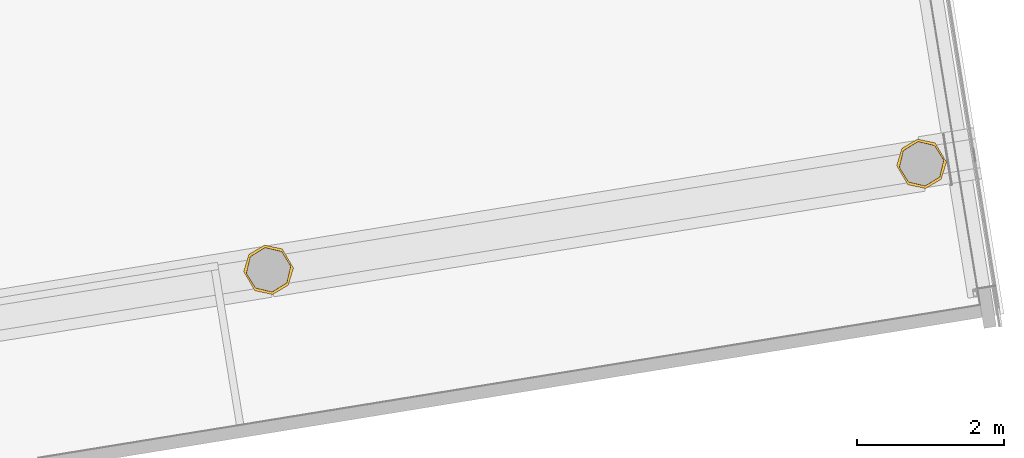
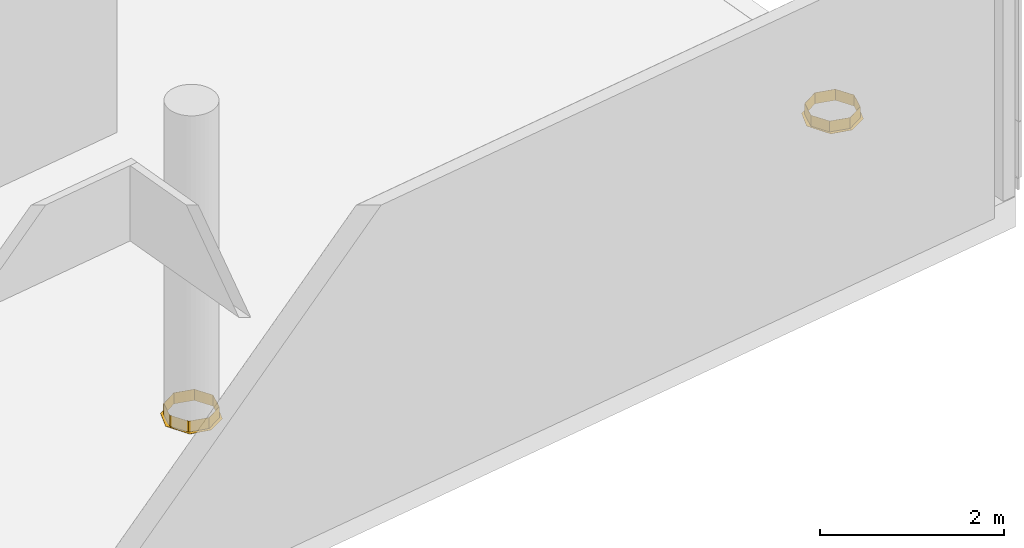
# One storey, part 29 of 38: 2 railings.
"""IFC2X3 building model written with IfcOpenShell, lengths in millimetres."""

from ifc_helpers import new_model, entity, si_unit, converted_unit, derived_unit, direction, frame, origin, origin_with_axes, place, context, subcontext, project, spatial, faceted_brep, material, type_object, element, save


model = new_model("IFC2X3")

# Units and contexts
model_context = context("Model", 3, precision=0.01, world=origin(), true_north=direction((6.12323399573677e-17, 1.0)))
plan_context = context("Plan", 3, precision=1e-05, world=origin_with_axes())
body_context = subcontext(model_context, "Body", "Model", "MODEL_VIEW")
ifc_project = project(units=[converted_unit("PLANEANGLEUNIT", "DEGREE", entity("IfcPositiveLengthMeasure", 0.0174532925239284), si_unit("PLANEANGLEUNIT", "RADIAN"), dimensions=[0, 0, 0, 0, 0, 0, 0]), si_unit("AREAUNIT", "SQUARE_METRE"), si_unit("LENGTHUNIT", "METRE", prefix="MILLI"), si_unit("MASSUNIT", "GRAM", prefix="KILO"), si_unit("POWERUNIT", "WATT"), si_unit("PRESSUREUNIT", "PASCAL", prefix="KILO"), si_unit("FORCEUNIT", "NEWTON", prefix="KILO"), si_unit("ELECTRICVOLTAGEUNIT", "VOLT"), si_unit("ELECTRICCURRENTUNIT", "AMPERE"), si_unit("THERMODYNAMICTEMPERATUREUNIT", "DEGREE_CELSIUS"), si_unit("TIMEUNIT", "SECOND"), si_unit("VOLUMEUNIT", "CUBIC_METRE"), derived_unit("LINEARVELOCITYUNIT", [(si_unit("LENGTHUNIT", "METRE"), 1), (si_unit("TIMEUNIT", "SECOND"), -1)]), derived_unit("VOLUMETRICFLOWRATEUNIT", [(si_unit("VOLUMEUNIT", "CUBIC_METRE"), 1), (si_unit("TIMEUNIT", "SECOND"), -1)]), derived_unit("THERMALTRANSMITTANCEUNIT", [(si_unit("POWERUNIT", "WATT"), 1), (si_unit("THERMODYNAMICTEMPERATUREUNIT", "KELVIN"), -1), (si_unit("AREAUNIT", "SQUARE_METRE"), -1)]), derived_unit("SOUNDPRESSUREUNIT", [(si_unit("PRESSUREUNIT", "PASCAL"), 1)])], contexts=[model_context, plan_context])

# Site, building, storey
site_placement = place(None, frame((-0.00071070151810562, 0.00438415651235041, 0.0), z_axis=(0.0, 0.0, 1.0), x_axis=(-0.160236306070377, 0.987078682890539, 0.0)))
site = spatial("IfcSite", under=ifc_project, at=site_placement, Name="Default", CompositionType="ELEMENT")
building_placement = place(site_placement, origin_with_axes())
building = spatial("IfcBuilding", under=site, at=building_placement, Name="TOO", CompositionType="ELEMENT")
storey_placement = place(building_placement, frame((0.0, 0.0, 50999.9999999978), z_axis=(0.0, 0.0, 1.0), x_axis=(1.0, 0.0, 0.0)))
storey = spatial("IfcBuildingStorey", under=building, at=storey_placement, Name="Nivå D-H01", CompositionType="ELEMENT", Elevation=50999.9999999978)

# Railings
ifc_material = material(Name="<Unnamed>")
railing_type = type_object("IfcRailingType", Name="Railing:A287-S04", PredefinedType="NOTDEFINED")
railing_1_placement = place(storey_placement, frame((770536.02437183, -603842.625391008, 2.0), z_axis=(0.0, 0.0, 1.0), x_axis=(1.0, 0.0, 0.0)))
element("IfcRailing", 1, at=railing_1_placement, inside=storey, type_object=railing_type, material=ifc_material, Name="Railing:A287-S04", ObjectType="Railing:A287-S04", PredefinedType="NOTDEFINED", context=body_context, shape_type="Brep", body=[
    faceted_brep([(39.595272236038, 340.144892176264, 148.0), (125.92770397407, 555.812460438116, 148.0), (103.594596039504, 501.895568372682, 148.0), (59.7428568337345, 388.785464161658, 148.0), (81.261488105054, 447.978676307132, 148.0), (58.9283801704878, 394.061784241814, 148.0), (36.5952722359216, 340.144892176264, 148.0), (58.9283801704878, 286.22800011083, 148.0), (81.261488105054, 232.311108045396, 148.0), (103.594596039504, 178.394215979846, 148.0), (125.92770397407, 124.477323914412, 148.0), (59.7428570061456, 291.504319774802, 148.0), (83.8221482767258, 446.91801613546, 148.0), (105.935586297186, 500.304578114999, 148.0), (128.049024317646, 553.691140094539, 148.0), (179.844596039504, 578.145568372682, 148.0), (233.761488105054, 600.478676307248, 148.0), (287.678380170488, 622.811784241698, 148.0), (341.595272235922, 645.144892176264, 148.0), (181.43558629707, 575.804578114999, 148.0), (234.822148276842, 597.91801613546, 148.0), (288.208710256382, 620.031454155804, 148.0), (341.595272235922, 642.144892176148, 148.0), (394.981834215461, 620.03145415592, 148.0), (448.368396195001, 597.91801613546, 148.0), (501.754958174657, 575.804578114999, 148.0), (555.14152015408, 553.691140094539, 148.0), (395.512164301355, 622.811784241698, 148.0), (449.429056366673, 600.478676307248, 148.0), (503.345948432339, 578.145568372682, 148.0), (557.262840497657, 555.812460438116, 148.0), (577.254958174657, 500.304578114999, 148.0), (599.368396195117, 446.91801613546, 148.0), (623.447687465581, 388.785464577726, 148.0), (643.595272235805, 340.144892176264, 148.0), (579.595948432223, 501.895568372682, 148.0), (601.929056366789, 447.978676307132, 148.0), (624.262164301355, 394.061784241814, 148.0), (646.595272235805, 340.144892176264, 148.0), (624.262164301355, 286.22800011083, 148.0), (601.929056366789, 232.311108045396, 148.0), (579.595948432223, 178.394215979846, 148.0), (557.262840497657, 124.477323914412, 148.0), (623.447687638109, 291.50432019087, 148.0), (599.368396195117, 233.371768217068, 148.0), (577.254958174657, 179.985206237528, 148.0), (555.14152015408, 126.598644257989, 148.0), (503.345948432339, 102.144215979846, 148.0), (449.429056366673, 79.81110804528, 148.0), (395.512164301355, 57.4780001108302, 148.0), (341.595272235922, 35.1448921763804, 148.0), (501.754958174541, 104.485206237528, 148.0), (448.368396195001, 82.3717682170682, 148.0), (394.981834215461, 60.2583301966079, 148.0), (341.595272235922, 38.1448921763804, 148.0), (288.208710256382, 60.2583301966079, 148.0), (234.822148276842, 82.3717682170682, 148.0), (181.43558629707, 104.485206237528, 148.0), (128.049024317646, 126.598644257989, 148.0), (179.844596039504, 102.144215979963, 148.0), (105.935586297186, 179.985206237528, 148.0), (233.761488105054, 79.81110804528, 148.0), (287.678380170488, 57.4780001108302, 148.0), (83.8221482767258, 233.371768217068, 148.0), (555.141520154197, 553.691140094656, 0.0), (577.254958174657, 500.304578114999, 0.0), (599.368396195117, 446.91801613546, 0.0), (621.481834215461, 393.53145415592, 0.0), (643.595272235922, 340.144892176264, 0.0), (341.595272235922, 642.144892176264, 0.0), (394.981834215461, 620.03145415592, 0.0), (448.368396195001, 597.91801613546, 0.0), (501.754958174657, 575.804578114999, 0.0), (288.208710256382, 620.03145415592, 0.0), (128.04902431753, 553.691140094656, 0.0), (181.43558629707, 575.804578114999, 0.0), (234.822148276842, 597.91801613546, 0.0), (105.935586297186, 500.304578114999, 0.0), (39.5952722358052, 340.144892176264, 0.0), (61.7087102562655, 393.53145415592, 0.0), (83.8221482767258, 446.91801613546, 0.0), (1.59527223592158, 340.144892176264, 0.0), (23.7795142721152, 397.409021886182, 0.0), (45.9637563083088, 454.6731515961, 0.0), (68.1479983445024, 511.937281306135, 0.0), (90.3322403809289, 569.201411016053, 0.0), (23.7795142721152, 282.880762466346, 0.0), (45.9637563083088, 225.616632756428, 0.0), (68.1479983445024, 168.352503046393, 0.0), (90.3322403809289, 111.088373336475, 0.0), (61.7087102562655, 286.758330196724, 0.0), (83.8221482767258, 233.371768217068, 0.0), (105.935586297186, 179.985206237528, 0.0), (128.04902431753, 126.598644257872, 0.0), (145.305187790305, 83.715098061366, 0.0), (200.278135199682, 56.3418227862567, 0.0), (255.251082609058, 28.9685475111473, 0.0), (310.224030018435, 1.59527223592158, 0.0), (181.435586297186, 104.485206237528, 0.0), (234.822148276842, 82.3717682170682, 0.0), (288.208710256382, 60.2583301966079, 0.0), (341.595272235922, 38.144892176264, 0.0), (380.882598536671, 28.9685475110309, 0.0), (451.541167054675, 56.3418227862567, 0.0), (522.199735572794, 83.7150980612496, 0.0), (592.858304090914, 111.088373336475, 0.0), (394.981834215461, 60.2583301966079, 0.0), (448.368396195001, 82.3717682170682, 0.0), (501.754958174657, 104.485206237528, 0.0), (555.141520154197, 126.598644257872, 0.0), (577.254958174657, 179.985206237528, 0.0), (599.368396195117, 233.371768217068, 0.0), (621.481834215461, 286.758330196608, 0.0), (615.042546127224, 168.352503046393, 0.0), (637.226788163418, 225.616632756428, 0.0), (659.411030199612, 282.880762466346, 0.0), (681.595272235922, 340.144892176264, 0.0), (659.411030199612, 397.409021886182, 0.0), (637.226788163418, 454.6731515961, 0.0), (615.042546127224, 511.937281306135, 0.0), (592.858304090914, 569.201411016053, 0.0), (537.885356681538, 596.574686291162, 0.0), (482.912409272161, 623.947961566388, 0.0), (427.939461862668, 651.321236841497, 0.0), (372.966514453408, 678.694512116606, 0.0), (160.990808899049, 596.574686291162, 0.0), (231.649377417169, 623.947961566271, 0.0), (302.307945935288, 651.321236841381, 0.0), (681.595272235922, 340.144892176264, 3.0), (592.858304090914, 569.201411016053, 3.0), (615.042546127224, 511.937281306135, 3.0), (637.226788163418, 454.6731515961, 3.0), (653.180009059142, 413.493141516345, 3.0), (537.885356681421, 596.574686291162, 3.0), (372.966514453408, 678.694512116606, 3.0), (427.939461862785, 651.321236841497, 3.0), (482.912409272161, 623.947961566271, 3.0), (90.3322403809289, 569.201411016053, 3.0), (160.990808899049, 596.574686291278, 3.0), (231.649377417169, 623.947961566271, 3.0), (302.307945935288, 651.321236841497, 3.0), (1.59527223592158, 340.144892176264, 3.0), (30.0105352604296, 413.493141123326, 3.0), (45.9637563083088, 454.6731515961, 3.0), (68.1479983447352, 511.937281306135, 3.0), (36.5952722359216, 340.144892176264, 3.0), (57.4668867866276, 390.533427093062, 3.0), (30.0105354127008, 266.796642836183, 3.0), (45.9637563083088, 225.616632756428, 3.0), (68.1479983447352, 168.352503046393, 3.0), (90.3322403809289, 111.088373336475, 3.0), (57.4668869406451, 289.756356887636, 3.0), (81.261488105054, 447.978676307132, 3.0), (103.594596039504, 501.895568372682, 3.0), (125.92770397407, 555.812460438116, 3.0), (179.84459603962, 578.145568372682, 3.0), (233.761488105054, 600.478676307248, 3.0), (287.678380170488, 622.811784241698, 3.0), (341.595272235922, 645.144892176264, 3.0), (395.512164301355, 622.811784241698, 3.0), (449.429056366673, 600.478676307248, 3.0), (503.345948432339, 578.145568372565, 3.0), (557.262840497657, 555.812460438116, 3.0), (581.057441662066, 498.367211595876, 3.0), (604.852042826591, 440.921962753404, 3.0), (625.723657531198, 390.533427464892, 3.0), (646.595272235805, 340.144892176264, 3.0), (653.180009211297, 266.796643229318, 3.0), (637.226788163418, 225.616632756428, 3.0), (615.042546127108, 168.352503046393, 3.0), (592.858304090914, 111.088373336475, 3.0), (625.723657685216, 289.75635725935, 3.0), (601.929056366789, 232.311108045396, 3.0), (579.595948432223, 178.394215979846, 3.0), (557.262840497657, 124.477323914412, 3.0), (503.345948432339, 102.144215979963, 3.0), (449.429056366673, 79.81110804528, 3.0), (395.512164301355, 57.4780001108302, 3.0), (341.595272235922, 35.1448921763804, 3.0), (522.199735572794, 83.715098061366, 3.0), (451.541167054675, 56.3418227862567, 3.0), (380.882598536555, 28.9685475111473, 3.0), (310.224030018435, 1.59527223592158, 3.0), (287.678380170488, 57.4780001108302, 3.0), (233.761488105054, 79.81110804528, 3.0), (179.844596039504, 102.144215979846, 3.0), (125.92770397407, 124.477323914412, 3.0), (145.305187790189, 83.7150980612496, 3.0), (102.133102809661, 181.922572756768, 3.0), (200.278135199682, 56.3418227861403, 3.0), (255.251082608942, 28.9685475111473, 3.0), (78.3385016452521, 239.367821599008, 3.0)], [[[0, 1, 2]], [[1, 0, 3]], [[0, 2, 4]], [[0, 4, 5]], [[0, 5, 6]], [[0, 6, 7]], [[0, 7, 8]], [[0, 8, 9]], [[0, 9, 10]], [[10, 11, 0]], [[1, 3, 12]], [[1, 12, 13]], [[1, 13, 14]], [[14, 15, 1]], [[14, 16, 15]], [[14, 17, 16]], [[14, 18, 17]], [[18, 14, 19]], [[18, 19, 20]], [[18, 20, 21]], [[18, 21, 22]], [[18, 22, 23]], [[18, 23, 24]], [[18, 24, 25]], [[18, 25, 26]], [[26, 27, 18]], [[26, 28, 27]], [[26, 29, 28]], [[26, 30, 29]], [[30, 26, 31]], [[30, 31, 32]], [[30, 32, 33]], [[30, 33, 34]], [[34, 35, 30]], [[34, 36, 35]], [[34, 37, 36]], [[34, 38, 37]], [[34, 39, 38]], [[34, 40, 39]], [[34, 41, 40]], [[34, 42, 41]], [[42, 34, 43]], [[42, 43, 44]], [[42, 44, 45]], [[42, 45, 46]], [[46, 47, 42]], [[46, 48, 47]], [[46, 49, 48]], [[46, 50, 49]], [[50, 46, 51]], [[50, 51, 52]], [[50, 52, 53]], [[50, 53, 54]], [[50, 54, 55]], [[50, 55, 56]], [[50, 56, 57]], [[50, 57, 58]], [[58, 10, 59]], [[10, 58, 60]], [[58, 59, 61]], [[58, 61, 62]], [[58, 62, 50]], [[10, 60, 63]], [[10, 63, 11]], [[32, 31, 26, 64, 65, 66, 67, 68, 34, 33]], [[23, 22, 69, 70, 71, 72, 64, 26, 25, 24]], [[73, 69, 22, 21, 20, 19, 14, 74, 75, 76]], [[77, 74, 14, 13, 12, 3, 0, 78, 79, 80]], [[78, 81, 82]], [[78, 82, 83]], [[78, 83, 84]], [[78, 84, 85]], [[85, 79, 78]], [[78, 86, 81]], [[78, 87, 86]], [[78, 88, 87]], [[78, 89, 88]], [[89, 78, 90]], [[89, 90, 91]], [[89, 91, 92]], [[89, 92, 93]], [[93, 94, 89]], [[93, 95, 94]], [[93, 96, 95]], [[93, 97, 96]], [[97, 93, 98]], [[97, 98, 99]], [[97, 99, 100]], [[97, 100, 101]], [[101, 102, 97]], [[101, 103, 102]], [[101, 104, 103]], [[101, 105, 104]], [[105, 101, 106]], [[105, 106, 107]], [[105, 107, 108]], [[105, 108, 109]], [[105, 109, 110]], [[105, 110, 111]], [[105, 111, 112]], [[105, 112, 68]], [[68, 113, 105]], [[68, 114, 113]], [[68, 115, 114]], [[68, 116, 115]], [[68, 117, 116]], [[68, 118, 117]], [[68, 119, 118]], [[68, 120, 119]], [[120, 68, 67]], [[120, 67, 66]], [[120, 66, 65]], [[120, 65, 64]], [[64, 121, 120]], [[64, 122, 121]], [[64, 123, 122]], [[64, 124, 123]], [[124, 64, 72]], [[124, 72, 71]], [[124, 71, 70]], [[124, 70, 69]], [[85, 69, 73]], [[69, 85, 125]], [[69, 125, 126]], [[69, 126, 127]], [[69, 127, 124]], [[85, 73, 76]], [[85, 76, 75]], [[85, 75, 74]], [[85, 74, 77]], [[85, 77, 80]], [[85, 80, 79]], [[128, 116, 117, 118, 119, 120, 129, 130, 131, 132]], [[133, 129, 120, 121, 122, 123, 124, 134, 135, 136]], [[126, 125, 85, 137, 138, 139, 140, 134, 124, 127]], [[83, 82, 81, 141, 142, 143, 144, 137, 85, 84]], [[145, 137, 144]], [[137, 145, 146]], [[145, 144, 143]], [[145, 143, 142]], [[145, 142, 141]], [[145, 141, 147]], [[145, 147, 148]], [[145, 148, 149]], [[145, 149, 150]], [[150, 151, 145]], [[137, 146, 152]], [[137, 152, 153]], [[137, 153, 154]], [[137, 154, 155]], [[137, 155, 156]], [[137, 156, 157]], [[137, 157, 158]], [[158, 138, 137]], [[158, 139, 138]], [[158, 140, 139]], [[158, 134, 140]], [[134, 158, 159]], [[134, 159, 160]], [[134, 160, 161]], [[134, 161, 162]], [[162, 135, 134]], [[162, 136, 135]], [[162, 133, 136]], [[162, 129, 133]], [[129, 162, 163]], [[129, 163, 164]], [[129, 164, 165]], [[129, 165, 166]], [[166, 130, 129]], [[166, 131, 130]], [[166, 132, 131]], [[166, 128, 132]], [[166, 167, 128]], [[166, 168, 167]], [[166, 169, 168]], [[166, 170, 169]], [[170, 166, 171]], [[170, 171, 172]], [[170, 172, 173]], [[170, 173, 174]], [[170, 174, 175]], [[170, 175, 176]], [[170, 176, 177]], [[170, 177, 178]], [[178, 179, 170]], [[178, 180, 179]], [[178, 181, 180]], [[178, 182, 181]], [[182, 178, 183]], [[182, 183, 184]], [[182, 184, 185]], [[182, 185, 186]], [[186, 150, 187]], [[150, 186, 188]], [[186, 187, 189]], [[186, 189, 190]], [[186, 190, 182]], [[150, 188, 191]], [[150, 191, 151]], [[35, 36, 37, 38, 166, 165, 164, 163, 162, 30]], [[30, 162, 161, 160, 159, 158, 18, 27, 28, 29]], [[154, 153, 152, 146, 145, 6, 5, 4, 2, 1]], [[17, 18, 158, 157, 156, 155, 154, 1, 15, 16]], [[63, 60, 58, 93, 92, 91, 90, 78, 0, 11]], [[55, 54, 101, 100, 99, 98, 93, 58, 57, 56]], [[106, 101, 54, 53, 52, 51, 46, 109, 108, 107]], [[110, 109, 46, 45, 44, 43, 34, 68, 112, 111]], [[141, 81, 86, 87, 88, 89, 150, 149, 148, 147]], [[187, 150, 89, 94, 95, 96, 97, 182, 190, 189]], [[103, 104, 105, 170, 179, 180, 181, 182, 97, 102]], [[114, 115, 116, 128, 167, 168, 169, 170, 105, 113]], [[9, 8, 7, 6, 145, 151, 191, 188, 186, 10]], [[10, 186, 185, 184, 183, 178, 50, 62, 61, 59]], [[174, 173, 172, 171, 166, 38, 39, 40, 41, 42]], [[49, 50, 178, 177, 176, 175, 174, 42, 47, 48]]]),
])
railing_2_placement = place(storey_placement, frame((770536.02437183, -594842.625391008, 2.0), z_axis=(0.0, 0.0, 1.0), x_axis=(1.0, 0.0, 0.0)))
element("IfcRailing", 2, at=railing_2_placement, inside=storey, type_object=railing_type, material=ifc_material, Name="Railing:A287-S04", ObjectType="Railing:A287-S04", PredefinedType="NOTDEFINED", context=body_context, shape_type="Brep", body=[
    faceted_brep([(39.595272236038, 340.144892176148, 148.0), (125.92770397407, 555.812460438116, 148.0), (103.594596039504, 501.895568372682, 148.0), (59.7428568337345, 388.785464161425, 148.0), (81.261488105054, 447.978676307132, 148.0), (58.9283801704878, 394.061784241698, 148.0), (36.5952722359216, 340.144892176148, 148.0), (58.9283801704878, 286.228000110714, 148.0), (81.261488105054, 232.31110804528, 148.0), (103.594596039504, 178.39421597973, 148.0), (125.92770397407, 124.477323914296, 148.0), (59.7428570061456, 291.504319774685, 148.0), (83.8221482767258, 446.918016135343, 148.0), (105.935586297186, 500.304578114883, 148.0), (128.049024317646, 553.691140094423, 148.0), (179.844596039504, 578.145568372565, 148.0), (233.761488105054, 600.478676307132, 148.0), (287.678380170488, 622.811784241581, 148.0), (341.595272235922, 645.144892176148, 148.0), (181.43558629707, 575.804578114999, 148.0), (234.822148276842, 597.918016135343, 148.0), (288.208710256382, 620.031454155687, 148.0), (341.595272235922, 642.144892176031, 148.0), (394.981834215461, 620.031454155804, 148.0), (448.368396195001, 597.918016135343, 148.0), (501.754958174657, 575.804578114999, 148.0), (555.14152015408, 553.691140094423, 148.0), (395.512164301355, 622.811784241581, 148.0), (449.429056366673, 600.478676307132, 148.0), (503.345948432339, 578.145568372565, 148.0), (557.262840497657, 555.812460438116, 148.0), (577.254958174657, 500.304578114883, 148.0), (599.368396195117, 446.918016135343, 148.0), (623.447687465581, 388.78546457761, 148.0), (643.595272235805, 340.144892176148, 148.0), (579.595948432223, 501.895568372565, 148.0), (601.929056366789, 447.978676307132, 148.0), (624.262164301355, 394.061784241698, 148.0), (646.595272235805, 340.144892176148, 148.0), (624.262164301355, 286.228000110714, 148.0), (601.929056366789, 232.31110804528, 148.0), (579.595948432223, 178.39421597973, 148.0), (557.262840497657, 124.477323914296, 148.0), (623.447687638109, 291.50432019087, 148.0), (599.368396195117, 233.371768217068, 148.0), (577.254958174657, 179.985206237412, 148.0), (555.14152015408, 126.598644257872, 148.0), (503.345948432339, 102.14421597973, 148.0), (449.429056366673, 79.81110804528, 148.0), (395.512164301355, 57.4780001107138, 148.0), (341.595272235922, 35.144892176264, 148.0), (501.754958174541, 104.485206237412, 148.0), (448.368396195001, 82.3717682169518, 148.0), (394.981834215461, 60.2583301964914, 148.0), (341.595272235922, 38.144892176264, 148.0), (288.208710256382, 60.2583301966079, 148.0), (234.822148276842, 82.3717682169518, 148.0), (181.43558629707, 104.485206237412, 148.0), (128.049024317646, 126.598644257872, 148.0), (179.844596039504, 102.14421597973, 148.0), (105.935586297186, 179.985206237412, 148.0), (233.761488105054, 79.81110804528, 148.0), (287.678380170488, 57.4780001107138, 148.0), (83.8221482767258, 233.371768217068, 148.0), (555.141520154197, 553.691140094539, 0.0), (577.254958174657, 500.304578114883, 0.0), (599.368396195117, 446.918016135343, 0.0), (621.481834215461, 393.531454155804, 0.0), (643.595272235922, 340.144892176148, 0.0), (341.595272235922, 642.144892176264, 0.0), (394.981834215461, 620.031454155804, 0.0), (448.368396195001, 597.918016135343, 0.0), (501.754958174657, 575.804578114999, 0.0), (288.208710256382, 620.031454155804, 0.0), (128.04902431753, 553.691140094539, 0.0), (181.43558629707, 575.804578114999, 0.0), (234.822148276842, 597.918016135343, 0.0), (105.935586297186, 500.304578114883, 0.0), (39.5952722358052, 340.144892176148, 0.0), (61.7087102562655, 393.531454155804, 0.0), (83.8221482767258, 446.918016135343, 0.0), (1.59527223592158, 340.144892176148, 0.0), (23.7795142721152, 397.409021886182, 0.0), (45.9637563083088, 454.6731515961, 0.0), (68.1479983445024, 511.937281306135, 0.0), (90.3322403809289, 569.201411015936, 0.0), (23.7795142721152, 282.880762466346, 0.0), (45.9637563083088, 225.616632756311, 0.0), (68.1479983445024, 168.352503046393, 0.0), (90.3322403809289, 111.088373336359, 0.0), (61.7087102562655, 286.758330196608, 0.0), (83.8221482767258, 233.371768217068, 0.0), (105.935586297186, 179.985206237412, 0.0), (128.04902431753, 126.598644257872, 0.0), (145.305187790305, 83.7150980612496, 0.0), (200.278135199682, 56.3418227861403, 0.0), (255.251082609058, 28.9685475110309, 0.0), (310.224030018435, 1.59527223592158, 0.0), (181.435586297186, 104.485206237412, 0.0), (234.822148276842, 82.3717682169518, 0.0), (288.208710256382, 60.2583301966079, 0.0), (341.595272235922, 38.1448921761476, 0.0), (380.882598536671, 28.9685475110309, 0.0), (451.541167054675, 56.3418227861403, 0.0), (522.199735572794, 83.7150980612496, 0.0), (592.858304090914, 111.088373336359, 0.0), (394.981834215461, 60.2583301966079, 0.0), (448.368396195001, 82.3717682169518, 0.0), (501.754958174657, 104.485206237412, 0.0), (555.141520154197, 126.598644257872, 0.0), (577.254958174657, 179.985206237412, 0.0), (599.368396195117, 233.371768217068, 0.0), (621.481834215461, 286.758330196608, 0.0), (615.042546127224, 168.352503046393, 0.0), (637.226788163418, 225.616632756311, 0.0), (659.411030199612, 282.880762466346, 0.0), (681.595272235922, 340.144892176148, 0.0), (659.411030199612, 397.409021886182, 0.0), (637.226788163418, 454.6731515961, 0.0), (615.042546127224, 511.937281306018, 0.0), (592.858304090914, 569.201411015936, 0.0), (537.885356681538, 596.574686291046, 0.0), (482.912409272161, 623.947961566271, 0.0), (427.939461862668, 651.321236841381, 0.0), (372.966514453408, 678.69451211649, 0.0), (160.990808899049, 596.574686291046, 0.0), (231.649377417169, 623.947961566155, 0.0), (302.307945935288, 651.321236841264, 0.0), (681.595272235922, 340.144892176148, 3.0), (592.858304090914, 569.201411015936, 3.0), (615.042546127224, 511.937281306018, 3.0), (637.226788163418, 454.6731515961, 3.0), (653.180009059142, 413.493141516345, 3.0), (537.885356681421, 596.574686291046, 3.0), (372.966514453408, 678.69451211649, 3.0), (427.939461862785, 651.321236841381, 3.0), (482.912409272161, 623.947961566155, 3.0), (90.3322403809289, 569.201411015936, 3.0), (160.990808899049, 596.574686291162, 3.0), (231.649377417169, 623.947961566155, 3.0), (302.307945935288, 651.321236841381, 3.0), (1.59527223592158, 340.144892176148, 3.0), (30.0105352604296, 413.49314112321, 3.0), (45.9637563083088, 454.6731515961, 3.0), (68.1479983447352, 511.937281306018, 3.0), (36.5952722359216, 340.144892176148, 3.0), (57.4668867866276, 390.533427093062, 3.0), (30.0105354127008, 266.796642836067, 3.0), (45.9637563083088, 225.616632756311, 3.0), (68.1479983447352, 168.352503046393, 3.0), (90.3322403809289, 111.088373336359, 3.0), (57.4668869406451, 289.756356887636, 3.0), (81.261488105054, 447.978676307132, 3.0), (103.594596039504, 501.895568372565, 3.0), (125.92770397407, 555.812460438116, 3.0), (179.84459603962, 578.145568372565, 3.0), (233.761488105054, 600.478676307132, 3.0), (287.678380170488, 622.811784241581, 3.0), (341.595272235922, 645.144892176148, 3.0), (395.512164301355, 622.811784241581, 3.0), (449.429056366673, 600.478676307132, 3.0), (503.345948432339, 578.145568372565, 3.0), (557.262840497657, 555.812460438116, 3.0), (581.057441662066, 498.367211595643, 3.0), (604.852042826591, 440.921962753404, 3.0), (625.723657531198, 390.533427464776, 3.0), (646.595272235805, 340.144892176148, 3.0), (653.180009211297, 266.796643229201, 3.0), (637.226788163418, 225.616632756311, 3.0), (615.042546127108, 168.352503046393, 3.0), (592.858304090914, 111.088373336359, 3.0), (625.723657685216, 289.75635725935, 3.0), (601.929056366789, 232.31110804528, 3.0), (579.595948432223, 178.39421597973, 3.0), (557.262840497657, 124.477323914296, 3.0), (503.345948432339, 102.144215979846, 3.0), (449.429056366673, 79.81110804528, 3.0), (395.512164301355, 57.4780001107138, 3.0), (341.595272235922, 35.144892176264, 3.0), (522.199735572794, 83.7150980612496, 3.0), (451.541167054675, 56.3418227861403, 3.0), (380.882598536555, 28.9685475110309, 3.0), (310.224030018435, 1.59527223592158, 3.0), (287.678380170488, 57.4780001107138, 3.0), (233.761488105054, 79.81110804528, 3.0), (179.844596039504, 102.14421597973, 3.0), (125.92770397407, 124.477323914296, 3.0), (145.305187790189, 83.7150980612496, 3.0), (102.133102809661, 181.922572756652, 3.0), (200.278135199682, 56.3418227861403, 3.0), (255.251082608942, 28.9685475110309, 3.0), (78.3385016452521, 239.367821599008, 3.0)], [[[0, 1, 2]], [[1, 0, 3]], [[0, 2, 4]], [[0, 4, 5]], [[0, 5, 6]], [[0, 6, 7]], [[0, 7, 8]], [[0, 8, 9]], [[0, 9, 10]], [[10, 11, 0]], [[1, 3, 12]], [[1, 12, 13]], [[1, 13, 14]], [[14, 15, 1]], [[14, 16, 15]], [[14, 17, 16]], [[14, 18, 17]], [[18, 14, 19]], [[18, 19, 20]], [[18, 20, 21]], [[18, 21, 22]], [[18, 22, 23]], [[18, 23, 24]], [[18, 24, 25]], [[18, 25, 26]], [[26, 27, 18]], [[26, 28, 27]], [[26, 29, 28]], [[26, 30, 29]], [[30, 26, 31]], [[30, 31, 32]], [[30, 32, 33]], [[30, 33, 34]], [[34, 35, 30]], [[34, 36, 35]], [[34, 37, 36]], [[34, 38, 37]], [[34, 39, 38]], [[34, 40, 39]], [[34, 41, 40]], [[34, 42, 41]], [[42, 34, 43]], [[42, 43, 44]], [[42, 44, 45]], [[42, 45, 46]], [[46, 47, 42]], [[46, 48, 47]], [[46, 49, 48]], [[46, 50, 49]], [[50, 46, 51]], [[50, 51, 52]], [[50, 52, 53]], [[50, 53, 54]], [[50, 54, 55]], [[50, 55, 56]], [[50, 56, 57]], [[50, 57, 58]], [[58, 10, 59]], [[10, 58, 60]], [[58, 59, 61]], [[58, 61, 62]], [[58, 62, 50]], [[10, 60, 63]], [[10, 63, 11]], [[32, 31, 26, 64, 65, 66, 67, 68, 34, 33]], [[23, 22, 69, 70, 71, 72, 64, 26, 25, 24]], [[73, 69, 22, 21, 20, 19, 14, 74, 75, 76]], [[77, 74, 14, 13, 12, 3, 0, 78, 79, 80]], [[78, 81, 82]], [[78, 82, 83]], [[78, 83, 84]], [[78, 84, 85]], [[85, 79, 78]], [[78, 86, 81]], [[78, 87, 86]], [[78, 88, 87]], [[78, 89, 88]], [[89, 78, 90]], [[89, 90, 91]], [[89, 91, 92]], [[89, 92, 93]], [[93, 94, 89]], [[93, 95, 94]], [[93, 96, 95]], [[93, 97, 96]], [[97, 93, 98]], [[97, 98, 99]], [[97, 99, 100]], [[97, 100, 101]], [[101, 102, 97]], [[101, 103, 102]], [[101, 104, 103]], [[101, 105, 104]], [[105, 101, 106]], [[105, 106, 107]], [[105, 107, 108]], [[105, 108, 109]], [[105, 109, 110]], [[105, 110, 111]], [[105, 111, 112]], [[105, 112, 68]], [[68, 113, 105]], [[68, 114, 113]], [[68, 115, 114]], [[68, 116, 115]], [[68, 117, 116]], [[68, 118, 117]], [[68, 119, 118]], [[68, 120, 119]], [[120, 68, 67]], [[120, 67, 66]], [[120, 66, 65]], [[120, 65, 64]], [[64, 121, 120]], [[64, 122, 121]], [[64, 123, 122]], [[64, 124, 123]], [[124, 64, 72]], [[124, 72, 71]], [[124, 71, 70]], [[124, 70, 69]], [[85, 69, 73]], [[69, 85, 125]], [[69, 125, 126]], [[69, 126, 127]], [[69, 127, 124]], [[85, 73, 76]], [[85, 76, 75]], [[85, 75, 74]], [[85, 74, 77]], [[85, 77, 80]], [[85, 80, 79]], [[128, 116, 117, 118, 119, 120, 129, 130, 131, 132]], [[133, 129, 120, 121, 122, 123, 124, 134, 135, 136]], [[126, 125, 85, 137, 138, 139, 140, 134, 124, 127]], [[83, 82, 81, 141, 142, 143, 144, 137, 85, 84]], [[145, 137, 144]], [[137, 145, 146]], [[145, 144, 143]], [[145, 143, 142]], [[145, 142, 141]], [[145, 141, 147]], [[145, 147, 148]], [[145, 148, 149]], [[145, 149, 150]], [[150, 151, 145]], [[137, 146, 152]], [[137, 152, 153]], [[137, 153, 154]], [[137, 154, 155]], [[137, 155, 156]], [[137, 156, 157]], [[137, 157, 158]], [[158, 138, 137]], [[158, 139, 138]], [[158, 140, 139]], [[158, 134, 140]], [[134, 158, 159]], [[134, 159, 160]], [[134, 160, 161]], [[134, 161, 162]], [[162, 135, 134]], [[162, 136, 135]], [[162, 133, 136]], [[162, 129, 133]], [[129, 162, 163]], [[129, 163, 164]], [[129, 164, 165]], [[129, 165, 166]], [[166, 130, 129]], [[166, 131, 130]], [[166, 132, 131]], [[166, 128, 132]], [[166, 167, 128]], [[166, 168, 167]], [[166, 169, 168]], [[166, 170, 169]], [[170, 166, 171]], [[170, 171, 172]], [[170, 172, 173]], [[170, 173, 174]], [[170, 174, 175]], [[170, 175, 176]], [[170, 176, 177]], [[170, 177, 178]], [[178, 179, 170]], [[178, 180, 179]], [[178, 181, 180]], [[178, 182, 181]], [[182, 178, 183]], [[182, 183, 184]], [[182, 184, 185]], [[182, 185, 186]], [[186, 150, 187]], [[150, 186, 188]], [[186, 187, 189]], [[186, 189, 190]], [[186, 190, 182]], [[150, 188, 191]], [[150, 191, 151]], [[35, 36, 37, 38, 166, 165, 164, 163, 162, 30]], [[30, 162, 161, 160, 159, 158, 18, 27, 28, 29]], [[154, 153, 152, 146, 145, 6, 5, 4, 2, 1]], [[17, 18, 158, 157, 156, 155, 154, 1, 15, 16]], [[63, 60, 58, 93, 92, 91, 90, 78, 0, 11]], [[55, 54, 101, 100, 99, 98, 93, 58, 57, 56]], [[106, 101, 54, 53, 52, 51, 46, 109, 108, 107]], [[110, 109, 46, 45, 44, 43, 34, 68, 112, 111]], [[141, 81, 86, 87, 88, 89, 150, 149, 148, 147]], [[187, 150, 89, 94, 95, 96, 97, 182, 190, 189]], [[103, 104, 105, 170, 179, 180, 181, 182, 97, 102]], [[114, 115, 116, 128, 167, 168, 169, 170, 105, 113]], [[9, 8, 7, 6, 145, 151, 191, 188, 186, 10]], [[10, 186, 185, 184, 183, 178, 50, 62, 61, 59]], [[174, 173, 172, 171, 166, 38, 39, 40, 41, 42]], [[49, 50, 178, 177, 176, 175, 174, 42, 47, 48]]]),
])

save(model, "model.ifc")
